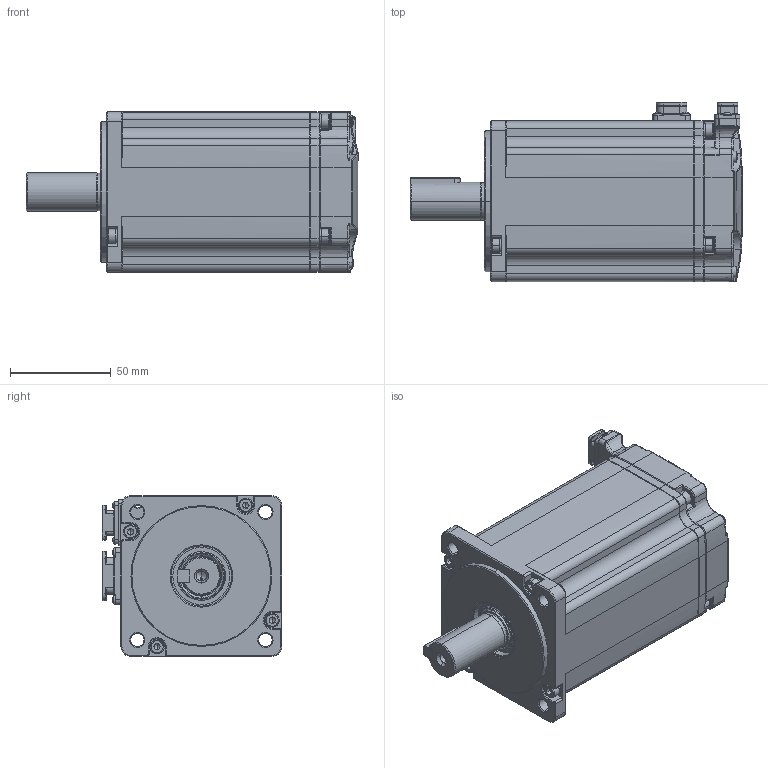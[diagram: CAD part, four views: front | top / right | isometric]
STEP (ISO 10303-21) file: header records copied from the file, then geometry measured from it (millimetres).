
FILE_DESCRIPTION (( 'STEP AP203' ), '1' );
FILE_NAME ('UMM-0010CA-B5.STEP', '2024-08-20T10:08:04', ( '' ), ( '' ), 'SwSTEP 2.0', 'SolidWorks 2022', '' );
FILE_SCHEMA (( 'CONFIG_CONTROL_DESIGN' ));
Products named in the file (1): UMM-0010CA-B5
Bounding box: 165 x 89.3 x 80 mm (x, y, z)
Volume: 696062.9 mm3; surface area: 126403.6 mm2
Topology: 18 solids, 25 shells, 2942 faces, 7734 edges, 4918 vertices
Faces by surface type: plane 1452, cylinder 853, bspline 374, cone 259, torus 4
Entity records: 108577 total; most frequent: CARTESIAN_POINT 38898, ORIENTED_EDGE 15410, DIRECTION 13368, EDGE_CURVE 7705, VERTEX_POINT 4918, AXIS2_PLACEMENT_3D 4494, VECTOR 4380, LINE 4380
